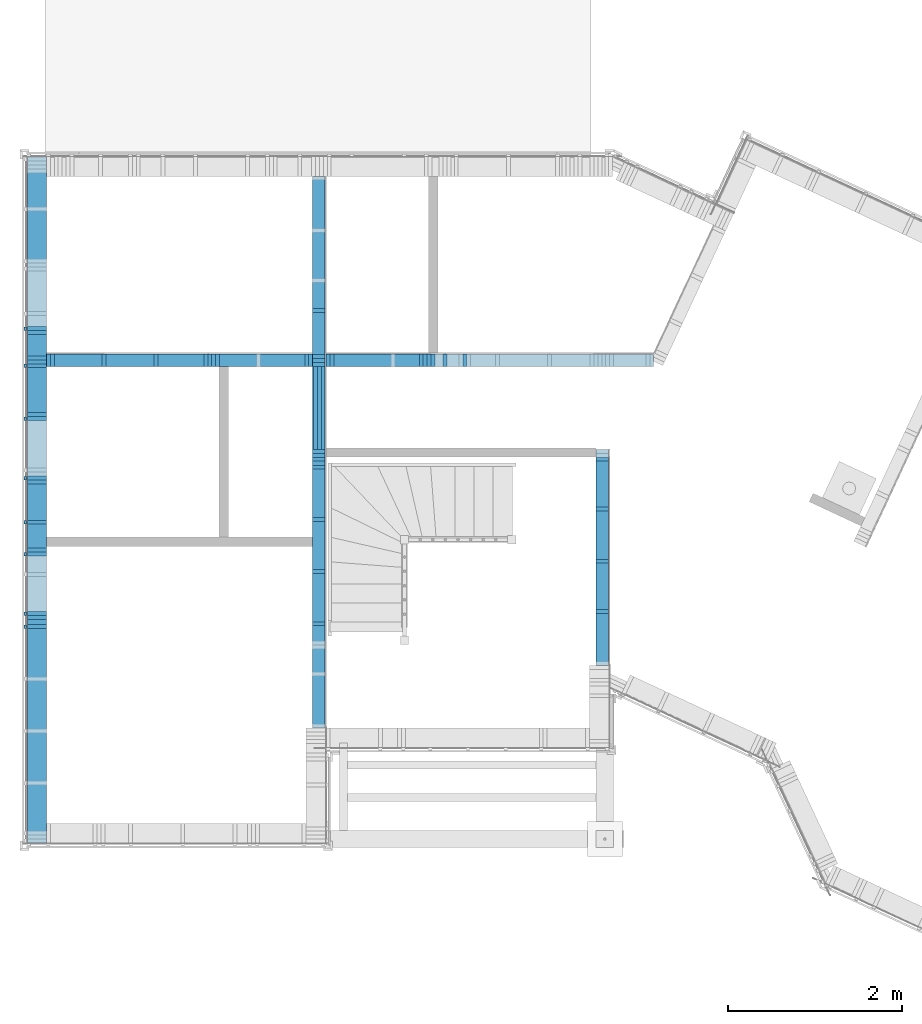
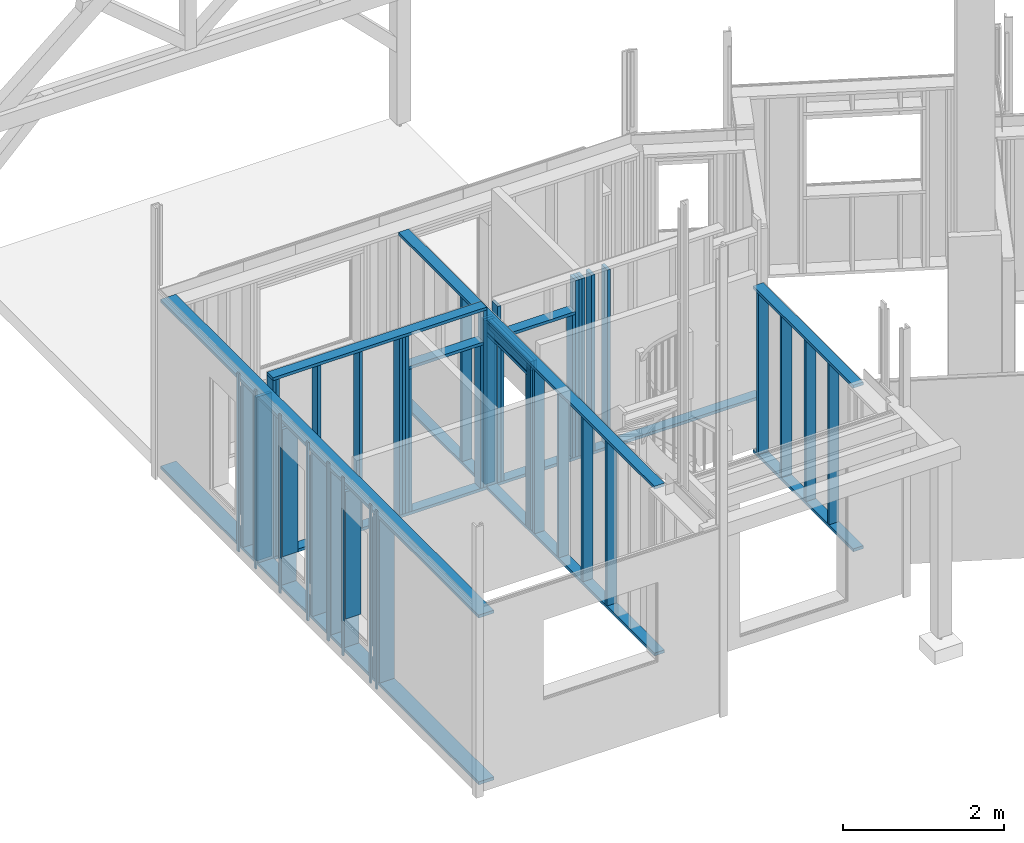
# One storey, part 7 of 34: 71 members.
"""IFC2X3 building model written with IfcOpenShell, lengths in metres."""

import ifcopenshell
import ifcopenshell.guid

model = None  # the IFC model being written
_history = None  # IfcOwnerHistory: only IFC2X3 demands one
_inside = {}  # id of a spatial element -> (the spatial element, [elements in it])
_under = {}  # id of a project, library or spatial element -> (it, [spatial elements below it])
_declared = {}  # id of a project -> (the project, [libraries it declares])
_typed = {}  # id of a type object -> (the type object, [elements of that type])
_made_of = {}  # id of a material, layer set ... -> (it, [elements and type objects made of it])


def new_model(schema):
    """Start an empty IFC model of exactly this schema.

    Asked for "IFC4X3", IfcOpenShell would pick the latest addendum, in which some entities
    have other attributes; the version numbers below select the first issue.
    IFC2X3 requires an IfcOwnerHistory on every rooted entity: one is made here for all.
    """
    global model, _history
    if schema == "IFC4X3":
        model = ifcopenshell.file(schema_version=(4, 3, 0, 0))
    else:
        model = ifcopenshell.file(schema=schema)
    _inside.clear()
    _under.clear()
    _declared.clear()
    _typed.clear()
    _made_of.clear()
    _history = None
    if model.schema == "IFC2X3":
        org = make("IfcOrganization", Name="unknown")
        user = make(
            "IfcPersonAndOrganization",
            ThePerson=make("IfcPerson", FamilyName="unknown"),
            TheOrganization=org,
        )
        app = make(
            "IfcApplication",
            ApplicationDeveloper=org,
            Version="unknown",
            ApplicationFullName="unknown",
            ApplicationIdentifier="unknown",
        )
        _history = make(
            "IfcOwnerHistory",
            OwningUser=user,
            OwningApplication=app,
            ChangeAction="ADDED",
            CreationDate=0,
        )
    return model


def make(cls, **values):
    """One entity of the class cls with the attributes given. An attribute that is None is left unset."""
    return model.create_entity(
        cls, **{name: value for name, value in values.items() if value is not None}
    )


def rooted(cls, **values):
    """An entity with a GlobalId (a new one), such as an element, a storey or a relation."""
    return make(cls, GlobalId=ifcopenshell.guid.new(), OwnerHistory=_history, **values)


def si_unit(unit_type, name, prefix=None):
    """IfcSIUnit, for example si_unit("LENGTHUNIT", "METRE", prefix="MILLI")."""
    return make("IfcSIUnit", UnitType=unit_type, Prefix=prefix, Name=name)


def assignment(units):
    """IfcUnitAssignment: the units of a project."""
    return None if units is None else make("IfcUnitAssignment", Units=units)


def point(xyz):
    """IfcCartesianPoint."""
    return None if xyz is None else make("IfcCartesianPoint", Coordinates=xyz)


def direction(xyz):
    """IfcDirection."""
    return None if xyz is None else make("IfcDirection", DirectionRatios=xyz)


def frame(location, z_axis=None, x_axis=None):
    """IfcAxis2Placement3D, a coordinate frame: its origin and axes. An axis left out is left unset."""
    return make(
        "IfcAxis2Placement3D",
        Location=point(location),
        Axis=direction(z_axis),
        RefDirection=direction(x_axis),
    )


def origin_with_axes():
    """The frame at (0, 0, 0) with the z axis (0, 0, 1) and the x axis (1, 0, 0) written out."""
    return frame((0.0, 0.0, 0.0), z_axis=(0.0, 0.0, 1.0), x_axis=(1.0, 0.0, 0.0))


def place(relative_to, where):
    """IfcLocalPlacement: puts the frame where relative to a parent placement (None: the world)."""
    return make(
        "IfcLocalPlacement", PlacementRelTo=relative_to, RelativePlacement=where
    )


def context(
    kind, dimensions, precision=None, world=None, true_north=None, identifier=None
):
    """IfcGeometricRepresentationContext, for example the 3D "Model" context."""
    return make(
        "IfcGeometricRepresentationContext",
        ContextIdentifier=identifier,
        ContextType=kind,
        CoordinateSpaceDimension=dimensions,
        Precision=precision,
        WorldCoordinateSystem=world,
        TrueNorth=true_north,
    )


def subcontext(parent, identifier, kind, view, scale=None):
    """IfcGeometricRepresentationSubContext, for example "Body" below "Model"."""
    return make(
        "IfcGeometricRepresentationSubContext",
        ContextIdentifier=identifier,
        ContextType=kind,
        ParentContext=parent,
        TargetScale=scale,
        TargetView=view,
    )


def project(units=None, contexts=None):
    """IfcProject with its units and contexts."""
    return rooted(
        "IfcProject",
        Name="project",
        RepresentationContexts=contexts,
        UnitsInContext=assignment(units),
    )


def spatial(cls, under=None, at=None, **own):
    """A site, building, storey or space (cls), placed at a placement, below another one or the project."""
    s = rooted(cls, ObjectPlacement=at, **own)
    if under is not None:
        _under.setdefault(under.id(), (under, []))[1].append(s)
    return s


def faces_of(points, faces, orient=None, outer=None):
    """IfcFace entities. A face is a list of loops; a loop is a list of indices into points, from 0.

    orient and outer hold one flag for each loop. By default every Orientation is true, the
    first loop of a face is its IfcFaceOuterBound and the others are IfcFaceBound.
    """
    made = []
    for i, loops in enumerate(faces):
        bounds = []
        for j, loop in enumerate(loops):
            is_outer = j == 0 if outer is None else outer[i][j]
            bounds.append(
                make(
                    "IfcFaceOuterBound" if is_outer else "IfcFaceBound",
                    Bound=make("IfcPolyLoop", Polygon=[points[k] for k in loop]),
                    Orientation=True if orient is None else orient[i][j],
                )
            )
        made.append(make("IfcFace", Bounds=bounds))
    return made


def faceted_brep(points, faces, orient=None, outer=None, voids=None):
    """IfcFacetedBrep: a solid bounded by flat faces; with voids (closed shells), ...WithVoids."""
    shared = [point(p) for p in points]
    hull = make("IfcClosedShell", CfsFaces=faces_of(shared, faces, orient, outer))
    if voids is None:
        return make("IfcFacetedBrep", Outer=hull)
    return make(
        "IfcFacetedBrepWithVoids",
        Outer=hull,
        Voids=[
            make(cls, CfsFaces=faces_of(shared, fs, o, b)) for cls, fs, o, b in voids
        ],
    )


def shape(context_of_items, identifier, shape_type, items):
    """IfcShapeRepresentation: the items that make up one representation, for example the "Body"."""
    return make(
        "IfcShapeRepresentation",
        ContextOfItems=context_of_items,
        RepresentationIdentifier=identifier,
        RepresentationType=shape_type,
        Items=items,
    )


def material(Name=None, Category=None):
    """IfcMaterial."""
    return make("IfcMaterial", Name=Name, Category=Category)


def made_of(thing, what):
    """Note that an element or type object is made of a material, layer set ...; save() writes the relation."""
    if what is not None:
        _made_of.setdefault(what.id(), (what, []))[1].append(thing)
    return thing


def element(
    cls,
    number,
    at=None,
    inside=None,
    cuts=None,
    type_object=None,
    material=None,
    context=None,
    identifier="Body",
    shape_type=None,
    held_by="IfcProductDefinitionShape",
    body=None,
    shapes=None,
    **own,
):
    """One element of the class cls, such as IfcWall. Its Tag is "e" and its number.

    at: its placement. inside: the storey or other place that contains it. cuts: it is an
    opening in that element (IfcRelVoidsElement). A single representation is given by context,
    identifier, shape_type and body (its items); several are given by shapes. held_by: the class
    of the entity that holds the representations. save() writes the other relations.
    """
    e = rooted(cls, Tag="e%d" % number, ObjectPlacement=at, **own)
    if body is not None:
        shapes = [shape(context, identifier, shape_type, body)]
    if shapes is not None:
        e.Representation = make(held_by, Representations=shapes)
    if inside is not None:
        _inside.setdefault(inside.id(), (inside, []))[1].append(e)
    if cuts is not None:
        rooted(
            "IfcRelVoidsElement", RelatingBuildingElement=cuts, RelatedOpeningElement=e
        )
    if type_object is not None:
        _typed.setdefault(type_object.id(), (type_object, []))[1].append(e)
    return made_of(e, material)


def aggregate(whole, parts):
    """IfcRelAggregates: a whole, such as a stair, and the parts it consists of."""
    return rooted("IfcRelAggregates", RelatingObject=whole, RelatedObjects=parts)


def save(model, path):
    """Write the relations noted so far, then the file.

    IfcRelAggregates (storeys below a building ...), IfcRelContainedInSpatialStructure (elements
    in a storey), IfcRelDefinesByType, IfcRelAssociatesMaterial and IfcRelDeclares: one each for
    every whole, place, type object, material and project.
    """
    for whole, parts in _under.values():
        aggregate(whole, parts)
    for where, things in _inside.values():
        rooted(
            "IfcRelContainedInSpatialStructure",
            RelatedElements=things,
            RelatingStructure=where,
        )
    for kind, things in _typed.values():
        rooted("IfcRelDefinesByType", RelatedObjects=things, RelatingType=kind)
    for what, things in _made_of.values():
        rooted("IfcRelAssociatesMaterial", RelatedObjects=things, RelatingMaterial=what)
    for by, libraries in _declared.values():
        rooted("IfcRelDeclares", RelatingContext=by, RelatedDefinitions=libraries)
    model.write(path)


model = new_model("IFC2X3")

# Units and contexts
model_context = context("Model", 3, precision=1e-06, world=origin_with_axes(), true_north=direction((0.0, 1.0, 0.0)))
body_context = subcontext(model_context, "Body", "Model", "MODEL_VIEW")
ifc_project = project(units=[si_unit("LENGTHUNIT", "METRE"), si_unit("AREAUNIT", "SQUARE_METRE"), si_unit("VOLUMEUNIT", "CUBIC_METRE"), si_unit("PLANEANGLEUNIT", "RADIAN")], contexts=[model_context])

# Site, building, storey
site_placement = place(None, origin_with_axes())
site = spatial("IfcSite", under=ifc_project, at=site_placement, CompositionType="ELEMENT")
building_placement = place(site_placement, origin_with_axes())
building = spatial("IfcBuilding", under=site, at=building_placement, Name="Building 1", CompositionType="ELEMENT")
storey_placement = place(building_placement, origin_with_axes())
storey = spatial("IfcBuildingStorey", under=building, at=storey_placement, Name="Rez de chaussée", CompositionType="ELEMENT", Elevation=0.0)

# Members
ifc_material = material(Name="Epicéa C24")
member_1_placement = place(storey_placement, frame((0.122, 3.3325564, 2.478), z_axis=(-1.0, 0.0, 0.0), x_axis=(0.0, 0.0, -1.0)))
element("IfcMember", 1, at=member_1_placement, inside=storey, material=ifc_material, Name="Montant", context=body_context, shape_type="Brep", body=[
    faceted_brep([(1.926, -0.0225, -0.11), (1.926, 0.0225, -0.11), (1.926, 0.0225, 0.11), (1.926, -0.0225, 0.11), (0.0, 0.0225, -0.11), (0.0, 0.0225, 0.11), (0.0, -0.0225, -0.11), (0.0, -0.0225, 0.11)], [[[0, 1, 2, 3]], [[2, 1, 4, 5]], [[1, 0, 6, 4]], [[0, 3, 7, 6]], [[3, 2, 5, 7]], [[7, 5, 4, 6]]]),
])
member_2_placement = place(storey_placement, frame((0.122, 3.698, 2.568), z_axis=(-1.0, 0.0, 0.0), x_axis=(0.0, 0.0, -1.0)))
element("IfcMember", 2, at=member_2_placement, inside=storey, material=ifc_material, Name="Montant", context=body_context, shape_type="Brep", body=[
    faceted_brep([(2.478, -0.0225, -0.11), (2.478, 0.0225, -0.11), (2.478, 0.0225, 0.11), (2.478, -0.0225, 0.11), (0.0, -0.0225, 0.11), (0.0, -0.0225, -0.11), (0.0, 0.0225, -0.11), (0.0, 0.0225, 0.11)], [[[0, 1, 2, 3]], [[0, 3, 4, 5]], [[1, 0, 5, 6]], [[2, 1, 6, 7]], [[3, 2, 7, 4]], [[4, 7, 6, 5]]]),
])
member_3_placement = place(storey_placement, frame((2.1535, 5.5627176, 2.76), z_axis=(0.0, 1.0, 0.0), x_axis=(0.0, 0.0, -1.0)))
element("IfcMember", 3, at=member_3_placement, inside=storey, material=ifc_material, Name="Montant", context=body_context, shape_type="Brep", body=[
    faceted_brep([(2.67, -0.0225, -0.0725), (2.67, 0.0225, -0.0725), (2.67, 0.0225, 0.0725), (2.67, -0.0225, 0.0725), (0.0, -0.0225, 0.0725), (0.0, -0.0225, -0.0725), (0.0, 0.0225, -0.0725), (0.0, 0.0225, 0.0725)], [[[0, 1, 2, 3]], [[0, 3, 4, 5]], [[1, 0, 5, 6]], [[2, 1, 6, 7]], [[3, 2, 7, 4]], [[4, 7, 6, 5]]]),
])
member_4_placement = place(storey_placement, frame((3.3635, 4.5125, 2.378), z_axis=(1.0, 0.0, 0.0), x_axis=(0.0, 0.0, -1.0)))
element("IfcMember", 4, at=member_4_placement, inside=storey, material=ifc_material, Name="Montant", context=body_context, shape_type="Brep", body=[
    faceted_brep([(2.288, -0.0225, -0.0725), (2.288, 0.0225, -0.0725), (2.288, 0.0225, 0.0725), (2.288, -0.0225, 0.0725), (0.0, -0.0225, 0.0725), (0.0, -0.0225, -0.0725), (0.0, 0.0225, -0.0725), (0.0, 0.0225, 0.0725)], [[[0, 1, 2, 3]], [[0, 3, 4, 5]], [[1, 0, 5, 6]], [[2, 1, 6, 7]], [[3, 2, 7, 4]], [[4, 7, 6, 5]]]),
])
member_5_placement = place(storey_placement, frame((6.6235, 4.4225, 2.52), z_axis=(1.0, 0.0, 0.0), x_axis=(0.0, 0.0, -1.0)))
element("IfcMember", 5, at=member_5_placement, inside=storey, material=ifc_material, Name="Montant", context=body_context, shape_type="Brep", body=[
    faceted_brep([(2.43, -0.0225, 0.0725), (2.43, 0.0225, 0.0725), (0.0, 0.0225, 0.0725), (0.0, -0.0225, 0.0725), (2.43, -0.0225, -0.0725), (2.43, 0.0225, -0.0725), (0.0, -0.0225, -0.0725), (0.0, 0.0225, -0.0725)], [[[0, 1, 2, 3]], [[4, 5, 1, 0]], [[4, 0, 3, 6]], [[5, 4, 6, 7]], [[1, 5, 7, 2]], [[3, 2, 7, 6]]]),
])
member_6_placement = place(storey_placement, frame((3.291, 5.5627176, 0.0675), z_axis=(0.0, -1.0, 0.0), x_axis=(-1.0, 0.0, 0.0)))
element("IfcMember", 6, at=member_6_placement, inside=storey, material=ifc_material, Name="Lisse basse", context=body_context, shape_type="Brep", body=[
    faceted_brep([(0.0, 0.0225, -0.0725), (3.059, 0.0225, -0.0725), (3.059, -0.0225, -0.0725), (0.0, -0.0225, -0.0725), (3.059, -0.0225, 0.0725), (0.0, -0.0225, 0.0725), (3.059, 0.0225, 0.0725), (0.0, 0.0225, 0.0725)], [[[0, 1, 2, 3]], [[4, 5, 3, 2]], [[6, 4, 2, 1]], [[0, 3, 5, 7]], [[0, 7, 6, 1]], [[7, 5, 4, 6]]]),
])
member_7_placement = place(storey_placement, frame((4.8151297, 5.5627176, 2.76), z_axis=(0.0, 1.0, 0.0), x_axis=(0.0, 0.0, -1.0)))
element("IfcMember", 7, at=member_7_placement, inside=storey, material=ifc_material, Name="Montant", context=body_context, shape_type="Brep", body=[
    faceted_brep([(2.67, -0.0225, -0.0725), (2.67, 0.0225, -0.0725), (2.67, 0.0225, 0.0725), (2.67, -0.0225, 0.0725), (0.0, -0.0225, 0.0725), (0.0, -0.0225, -0.0725), (0.0, 0.0225, -0.0725), (0.0, 0.0225, 0.0725)], [[[0, 1, 2, 3]], [[0, 3, 4, 5]], [[1, 0, 5, 6]], [[2, 1, 6, 7]], [[3, 2, 7, 4]], [[4, 7, 6, 5]]]),
])
member_8_placement = place(storey_placement, frame((7.2131297, 5.5627176, 0.0675), z_axis=(0.0, -1.0, 0.0), x_axis=(-1.0, 0.0, 0.0)))
element("IfcMember", 8, at=member_8_placement, inside=storey, material=ifc_material, Name="Lisse basse", context=body_context, shape_type="Brep", body=[
    faceted_brep([(0.0, 0.0225, -0.0725), (3.7651297, 0.0225, -0.0725), (3.7651297, -0.0225, -0.0725), (0.0, -0.0225, -0.0725), (3.7651297, -0.0225, 0.0725), (0.0, -0.0225, 0.0725), (3.7651297, 0.0225, 0.0725), (0.0, 0.0225, 0.0725)], [[[0, 1, 2, 3]], [[4, 5, 3, 2]], [[2, 1, 6, 4]], [[7, 6, 1, 0]], [[5, 4, 6, 7]], [[5, 7, 0, 3]]]),
])
for number, where, z_axis, x_axis, name in (
    (9, (4.6305, 5.5627176, 2.76), (0.0, 1.0, 0.0), (0.0, 0.0, -1.0), "Montant"),
    (10, (4.6755, 5.5627176, 2.76), (0.0, 1.0, 0.0), (0.0, 0.0, -1.0), "Montant"),
):
    element("IfcMember", number, at=place(storey_placement, frame(where, z_axis=z_axis, x_axis=x_axis)), inside=storey, material=ifc_material, Name=name, context=body_context, shape_type="Brep", body=[
        faceted_brep([(2.67, -0.0225, -0.0725), (2.67, 0.0225, -0.0725), (2.67, 0.0225, 0.0725), (2.67, -0.0225, 0.0725), (0.0, -0.0225, 0.0725), (0.0, -0.0225, -0.0725), (0.0, 0.0225, -0.0725), (0.0, 0.0225, 0.0725)], [[[0, 1, 2, 3]], [[0, 3, 4, 5]], [[1, 0, 5, 6]], [[2, 1, 6, 7]], [[3, 2, 7, 4]], [[4, 7, 6, 5]]]),
    ])
for number, where, z_axis, x_axis, name in (
    (11, (-0.013, 2.6475564, 2.703), (-1.0, 0.0, 0.0), (0.0, 0.0, -1.0), "latte 27/40"),
    (12, (-0.013, 4.8903031, 2.703), (-1.0, 0.0, 0.0), (0.0, 0.0, -1.0), "latte 27/40"),
):
    element("IfcMember", number, at=place(storey_placement, frame(where, z_axis=z_axis, x_axis=x_axis)), inside=storey, material=ifc_material, Name=name, context=body_context, shape_type="Brep", body=[
        faceted_brep([(0.0, -0.02, 0.012), (0.0, 0.02, 0.012), (0.0, 0.02, -0.012), (0.0, -0.02, -0.012), (2.698, 0.02, -0.012), (2.698, -0.02, -0.012), (2.698, -0.02, 0.012), (2.698, 0.02, 0.012)], [[[0, 1, 2, 3]], [[3, 2, 4, 5]], [[0, 3, 5, 6]], [[1, 0, 6, 7]], [[7, 6, 5, 4]], [[2, 1, 7, 4]]]),
    ])
member_9_placement = place(storey_placement, frame((5.0401817, 5.5627176, 2.76), z_axis=(0.0, 1.0, 0.0), x_axis=(0.0, 0.0, -1.0)))
element("IfcMember", 13, at=member_9_placement, inside=storey, material=ifc_material, Name="Montant", context=body_context, shape_type="Brep", body=[
    faceted_brep([(2.67, -0.0225, -0.0725), (2.67, 0.0225, -0.0725), (2.67, 0.0225, 0.0725), (2.67, -0.0225, 0.0725), (0.0, -0.0225, 0.0725), (0.0, -0.0225, -0.0725), (0.0, 0.0225, -0.0725), (0.0, 0.0225, 0.0725)], [[[0, 1, 2, 3]], [[0, 3, 4, 5]], [[1, 0, 5, 6]], [[2, 1, 6, 7]], [[3, 2, 7, 4]], [[4, 7, 6, 5]]]),
])
member_10_placement = place(storey_placement, frame((0.122, 7.896, 0.0675), z_axis=(1.0, 0.0, 0.0), x_axis=(0.0, -1.0, 0.0)))
element("IfcMember", 14, at=member_10_placement, inside=storey, material=ifc_material, Name="Lisse basse", context=body_context, shape_type="Brep", body=[
    faceted_brep([(7.884, 0.0225, -0.11), (7.884, 0.0225, 0.11), (7.884, -0.0225, 0.11), (7.884, -0.0225, -0.11), (0.0, 0.0225, 0.11), (0.0, 0.0225, -0.11), (0.0, -0.0225, -0.11), (0.0, -0.0225, 0.11)], [[[0, 1, 2, 3]], [[4, 5, 6, 7]], [[1, 4, 7, 2]], [[0, 5, 4, 1]], [[3, 6, 5, 0]], [[2, 7, 6, 3]]]),
])
member_11_placement = place(storey_placement, frame((0.122, 5.9256735, 2.478), z_axis=(-1.0, 0.0, 0.0), x_axis=(0.0, 0.0, -1.0)))
element("IfcMember", 15, at=member_11_placement, inside=storey, material=ifc_material, Name="Montant", context=body_context, shape_type="Brep", body=[
    faceted_brep([(1.926, -0.0225, -0.11), (1.926, 0.0225, -0.11), (1.926, 0.0225, 0.11), (1.926, -0.0225, 0.11), (0.0, 0.0225, -0.11), (0.0, 0.0225, 0.11), (0.0, -0.0225, -0.11), (0.0, -0.0225, 0.11)], [[[0, 1, 2, 3]], [[2, 1, 4, 5]], [[1, 0, 6, 4]], [[0, 3, 7, 6]], [[3, 2, 5, 7]], [[7, 5, 4, 6]]]),
])
member_12_placement = place(storey_placement, frame((3.291, 5.5627176, 2.7825), z_axis=(0.0, -1.0, 0.0), x_axis=(-1.0, 0.0, 0.0)))
element("IfcMember", 16, at=member_12_placement, inside=storey, material=ifc_material, Name="Montant", context=body_context, shape_type="Brep", body=[
    faceted_brep([(0.0, 0.0225, -0.0725), (3.059, 0.0225, -0.0725), (3.059, -0.0225, -0.0725), (0.0, -0.0225, -0.0725), (3.059, -0.0225, 0.0725), (0.0, -0.0225, 0.0725), (3.059, 0.0225, 0.0725), (0.0, 0.0225, 0.0725)], [[[0, 1, 2, 3]], [[4, 5, 3, 2]], [[6, 4, 2, 1]], [[0, 3, 5, 7]], [[0, 7, 6, 1]], [[7, 5, 4, 6]]]),
])
member_13_placement = place(storey_placement, frame((0.2995, 5.5627176, 2.76), z_axis=(0.0, 1.0, 0.0), x_axis=(0.0, 0.0, -1.0)))
element("IfcMember", 17, at=member_13_placement, inside=storey, material=ifc_material, Name="Montant", context=body_context, shape_type="Brep", body=[
    faceted_brep([(2.67, -0.0225, -0.0725), (2.67, 0.0225, -0.0725), (2.67, 0.0225, 0.0725), (2.67, -0.0225, 0.0725), (0.0, -0.0225, 0.0725), (0.0, -0.0225, -0.0725), (0.0, 0.0225, -0.0725), (0.0, 0.0225, 0.0725)], [[[0, 1, 2, 3]], [[0, 3, 4, 5]], [[1, 0, 5, 6]], [[2, 1, 6, 7]], [[3, 2, 7, 4]], [[4, 7, 6, 5]]]),
])
member_14_placement = place(storey_placement, frame((6.6235, 2.0514744, 0.0675), z_axis=(-1.0, 0.0, 0.0), x_axis=(0.0, 1.0, 0.0)))
element("IfcMember", 18, at=member_14_placement, inside=storey, material=ifc_material, Name="Lisse basse", context=body_context, shape_type="Brep", body=[
    faceted_brep([(0.0, 0.0225, -0.0725), (2.4835256, 0.0225, -0.0725), (2.4835256, -0.0225, -0.0725), (0.0, -0.0225, -0.0725), (2.4835256, 0.0225, 0.0725), (2.4835256, -0.0225, 0.0725), (0.0, -0.0225, 0.0725), (0.0, 0.0225, 0.0725)], [[[0, 1, 2, 3]], [[4, 5, 2, 1]], [[5, 6, 3, 2]], [[7, 4, 1, 0]], [[6, 5, 4, 7]], [[6, 7, 0, 3]]]),
])
member_15_placement = place(storey_placement, frame((0.122, 4.1603031, 2.568), z_axis=(-1.0, 0.0, 0.0), x_axis=(0.0, 0.0, -1.0)))
element("IfcMember", 19, at=member_15_placement, inside=storey, material=ifc_material, Name="Montant", context=body_context, shape_type="Brep", body=[
    faceted_brep([(2.478, -0.0225, -0.11), (2.478, 0.0225, -0.11), (2.478, 0.0225, 0.11), (2.478, -0.0225, 0.11), (0.0, -0.0225, 0.11), (0.0, -0.0225, -0.11), (0.0, 0.0225, -0.11), (0.0, 0.0225, 0.11)], [[[0, 1, 2, 3]], [[0, 3, 4, 5]], [[1, 0, 5, 6]], [[2, 1, 6, 7]], [[3, 2, 7, 4]], [[4, 7, 6, 5]]]),
])
member_16_placement = place(storey_placement, frame((0.122, 7.896, 2.5905), z_axis=(1.0, 0.0, 0.0), x_axis=(0.0, -1.0, 0.0)))
element("IfcMember", 20, at=member_16_placement, inside=storey, material=ifc_material, Name="Montant", context=body_context, shape_type="Brep", body=[
    faceted_brep([(7.884, 0.0225, -0.11), (7.884, 0.0225, 0.11), (7.884, -0.0225, 0.11), (7.884, -0.0225, -0.11), (0.0, 0.0225, 0.11), (0.0, 0.0225, -0.11), (0.0, -0.0225, -0.11), (0.0, -0.0225, 0.11)], [[[0, 1, 2, 3]], [[4, 5, 6, 7]], [[1, 4, 7, 2]], [[0, 5, 4, 1]], [[3, 6, 5, 0]], [[2, 7, 6, 3]]]),
])
member_17_placement = place(storey_placement, frame((3.3635, 5.6027176, 2.568), z_axis=(-1.0, 0.0, 0.0), x_axis=(0.0, 0.0, -1.0)))
element("IfcMember", 21, at=member_17_placement, inside=storey, material=ifc_material, Name="Montant", context=body_context, shape_type="Brep", body=[
    faceted_brep([(2.478, -0.0225, -0.0725), (2.478, 0.0225, -0.0725), (2.478, 0.0225, 0.0725), (2.478, -0.0225, 0.0725), (0.0, -0.0225, 0.0725), (0.0, -0.0225, -0.0725), (0.0, 0.0225, -0.0725), (0.0, 0.0225, 0.0725)], [[[0, 1, 2, 3]], [[0, 3, 4, 5]], [[1, 0, 5, 6]], [[2, 1, 6, 7]], [[3, 2, 7, 4]], [[4, 7, 6, 5]]]),
])
member_18_placement = place(storey_placement, frame((-0.013, 3.3325564, 2.703), z_axis=(-1.0, 0.0, 0.0), x_axis=(0.0, 0.0, -1.0)))
element("IfcMember", 22, at=member_18_placement, inside=storey, material=ifc_material, Name="latte 27/40", context=body_context, shape_type="Brep", body=[
    faceted_brep([(0.0, -0.02, 0.012), (0.0, 0.02, 0.012), (0.0, 0.02, -0.012), (0.0, -0.02, -0.012), (2.698, 0.02, -0.012), (2.698, -0.02, -0.012), (2.698, -0.02, 0.012), (2.698, 0.02, 0.012)], [[[0, 1, 2, 3]], [[3, 2, 4, 5]], [[0, 3, 5, 6]], [[1, 0, 6, 7]], [[7, 6, 5, 4]], [[2, 1, 7, 4]]]),
])
member_19_placement = place(storey_placement, frame((0.122, 2.6025564, 2.568), z_axis=(-1.0, 0.0, 0.0), x_axis=(0.0, 0.0, -1.0)))
element("IfcMember", 23, at=member_19_placement, inside=storey, material=ifc_material, Name="Montant", context=body_context, shape_type="Brep", body=[
    faceted_brep([(2.478, -0.0225, -0.11), (2.478, 0.0225, -0.11), (2.478, 0.0225, 0.11), (2.478, -0.0225, 0.11), (0.0, -0.0225, 0.11), (0.0, -0.0225, -0.11), (0.0, 0.0225, -0.11), (0.0, 0.0225, 0.11)], [[[0, 1, 2, 3]], [[0, 3, 4, 5]], [[1, 0, 5, 6]], [[2, 1, 6, 7]], [[3, 2, 7, 4]], [[4, 7, 6, 5]]]),
])
member_20_placement = place(storey_placement, frame((3.3635, 1.3328281, 0.0675), z_axis=(-1.0, 0.0, 0.0), x_axis=(0.0, 1.0, 0.0)))
element("IfcMember", 24, at=member_20_placement, inside=storey, material=ifc_material, Name="Lisse basse", context=body_context, shape_type="Brep", body=[
    faceted_brep([(0.0, 0.0225, -0.0725), (6.3431719, 0.0225, -0.0725), (6.3431719, -0.0225, -0.0725), (0.0, -0.0225, -0.0725), (6.3431719, -0.0225, 0.0725), (0.0, -0.0225, 0.0725), (6.3431719, 0.0225, 0.0725), (0.0, 0.0225, 0.0725)], [[[0, 1, 2, 3]], [[4, 5, 3, 2]], [[6, 4, 2, 1]], [[7, 6, 1, 0]], [[5, 4, 6, 7]], [[5, 7, 0, 3]]]),
])
member_21_placement = place(storey_placement, frame((6.6235, 3.2494744, 2.52), z_axis=(1.0, 0.0, 0.0), x_axis=(0.0, 0.0, -1.0)))
element("IfcMember", 25, at=member_21_placement, inside=storey, material=ifc_material, Name="Montant", context=body_context, shape_type="Brep", body=[
    faceted_brep([(2.43, -0.0225, 0.0725), (2.43, 0.0225, 0.0725), (0.0, 0.0225, 0.0725), (0.0, -0.0225, 0.0725), (2.43, -0.0225, -0.0725), (2.43, 0.0225, -0.0725), (0.0, -0.0225, -0.0725), (0.0, 0.0225, -0.0725)], [[[0, 1, 2, 3]], [[4, 5, 1, 0]], [[4, 0, 3, 6]], [[5, 4, 6, 7]], [[1, 5, 7, 2]], [[3, 2, 7, 6]]]),
])
member_22_placement = place(storey_placement, frame((2.0635, 5.5627176, 2.76), z_axis=(0.0, 1.0, 0.0), x_axis=(0.0, 0.0, -1.0)))
element("IfcMember", 26, at=member_22_placement, inside=storey, material=ifc_material, Name="Montant", context=body_context, shape_type="Brep", body=[
    faceted_brep([(2.67, -0.0225, -0.0725), (2.67, 0.0225, -0.0725), (2.67, 0.0225, 0.0725), (2.67, -0.0225, 0.0725), (0.0, -0.0225, 0.0725), (0.0, -0.0225, -0.0725), (0.0, 0.0225, -0.0725), (0.0, 0.0225, 0.0725)], [[[0, 1, 2, 3]], [[0, 3, 4, 5]], [[1, 0, 5, 6]], [[2, 1, 6, 7]], [[3, 2, 7, 4]], [[4, 7, 6, 5]]]),
])
member_23_placement = place(storey_placement, frame((3.3635, 1.3328281, 2.5905), z_axis=(-1.0, 0.0, 0.0), x_axis=(0.0, 1.0, 0.0)))
element("IfcMember", 27, at=member_23_placement, inside=storey, material=ifc_material, Name="Montant", context=body_context, shape_type="Brep", body=[
    faceted_brep([(0.0, 0.0225, -0.0725), (6.3431719, 0.0225, -0.0725), (6.3431719, -0.0225, -0.0725), (0.0, -0.0225, -0.0725), (6.3431719, -0.0225, 0.0725), (0.0, -0.0225, 0.0725), (6.3431719, 0.0225, 0.0725), (0.0, 0.0225, 0.0725)], [[[0, 1, 2, 3]], [[4, 5, 3, 2]], [[6, 4, 2, 1]], [[7, 6, 1, 0]], [[5, 4, 6, 7]], [[5, 7, 0, 3]]]),
])
member_24_placement = place(storey_placement, frame((6.6235, 2.0514744, 2.5425), z_axis=(-1.0, 0.0, 0.0), x_axis=(0.0, 1.0, 0.0)))
element("IfcMember", 28, at=member_24_placement, inside=storey, material=ifc_material, Name="Montant", context=body_context, shape_type="Brep", body=[
    faceted_brep([(0.0, 0.0225, -0.0725), (2.4835256, 0.0225, -0.0725), (2.4835256, -0.0225, -0.0725), (0.0, -0.0225, -0.0725), (2.4835256, 0.0225, 0.0725), (2.4835256, -0.0225, 0.0725), (0.0, -0.0225, 0.0725), (0.0, 0.0225, 0.0725)], [[[0, 1, 2, 3]], [[4, 5, 2, 1]], [[5, 6, 3, 2]], [[7, 4, 1, 0]], [[6, 5, 4, 7]], [[6, 7, 0, 3]]]),
])
member_25_placement = place(storey_placement, frame((3.3635, 5.5352176, 2.4005), z_axis=(1.0, 0.0, 0.0), x_axis=(0.0, -1.0, 0.0)))
element("IfcMember", 29, at=member_25_placement, inside=storey, material=ifc_material, Name="Montant", context=body_context, shape_type="Brep", body=[
    faceted_brep([(0.0, 0.0225, -0.0725), (0.0, -0.0225, -0.0725), (0.0, -0.0225, 0.0725), (0.0, 0.0225, 0.0725), (1.0452176, 0.0225, -0.0725), (1.0452176, -0.0225, -0.0725), (1.0452176, 0.0225, 0.0725), (1.0452176, -0.0225, 0.0725)], [[[0, 1, 2, 3]], [[1, 0, 4, 5]], [[0, 3, 6, 4]], [[5, 4, 6, 7]], [[2, 1, 5, 7]], [[3, 2, 7, 6]]]),
])
member_26_placement = place(storey_placement, frame((6.6235, 2.6739744, 2.52), z_axis=(1.0, 0.0, 0.0), x_axis=(0.0, 0.0, -1.0)))
element("IfcMember", 30, at=member_26_placement, inside=storey, material=ifc_material, Name="Montant", context=body_context, shape_type="Brep", body=[
    faceted_brep([(2.43, -0.0225, 0.0725), (2.43, 0.0225, 0.0725), (0.0, 0.0225, 0.0725), (0.0, -0.0225, 0.0725), (2.43, -0.0225, -0.0725), (2.43, 0.0225, -0.0725), (0.0, -0.0225, -0.0725), (0.0, 0.0225, -0.0725)], [[[0, 1, 2, 3]], [[4, 5, 1, 0]], [[4, 0, 3, 6]], [[5, 4, 6, 7]], [[1, 5, 7, 2]], [[3, 2, 7, 6]]]),
])
member_27_placement = place(storey_placement, frame((0.122, 3.3775564, 2.568), z_axis=(-1.0, 0.0, 0.0), x_axis=(0.0, 0.0, -1.0)))
element("IfcMember", 31, at=member_27_placement, inside=storey, material=ifc_material, Name="Montant", context=body_context, shape_type="Brep", body=[
    faceted_brep([(2.478, -0.0225, -0.11), (2.478, 0.0225, -0.11), (2.478, 0.0225, 0.11), (2.478, -0.0225, 0.11), (0.0, -0.0225, 0.11), (0.0, -0.0225, -0.11), (0.0, 0.0225, -0.11), (0.0, 0.0225, 0.11)], [[[0, 1, 2, 3]], [[0, 3, 4, 5]], [[1, 0, 5, 6]], [[2, 1, 6, 7]], [[3, 2, 7, 4]], [[4, 7, 6, 5]]]),
])
member_28_placement = place(storey_placement, frame((0.122, 2.6475564, 2.478), z_axis=(-1.0, 0.0, 0.0), x_axis=(0.0, 0.0, -1.0)))
element("IfcMember", 32, at=member_28_placement, inside=storey, material=ifc_material, Name="Montant", context=body_context, shape_type="Brep", body=[
    faceted_brep([(1.926, -0.0225, -0.11), (1.926, 0.0225, -0.11), (1.926, 0.0225, 0.11), (1.926, -0.0225, 0.11), (0.0, 0.0225, -0.11), (0.0, 0.0225, 0.11), (0.0, -0.0225, -0.11), (0.0, -0.0225, 0.11)], [[[0, 1, 2, 3]], [[2, 1, 4, 5]], [[1, 0, 6, 4]], [[0, 3, 7, 6]], [[3, 2, 5, 7]], [[7, 5, 4, 6]]]),
])
for number, where, z_axis, x_axis, name in (
    (33, (3.3235, 5.5352176, 2.4955), (0.0, 0.0, 1.0), (0.0, -1.0, 0.0), "Montant"),
    (34, (3.3685, 5.5352176, 2.4955), (0.0, 0.0, 1.0), (0.0, -1.0, 0.0), "Montant"),
):
    element("IfcMember", number, at=place(storey_placement, frame(where, z_axis=z_axis, x_axis=x_axis)), inside=storey, material=ifc_material, Name=name, context=body_context, shape_type="Brep", body=[
        faceted_brep([(1.0452176, 0.0225, -0.0725), (1.0452176, 0.0225, 0.0725), (1.0452176, -0.0225, 0.0725), (1.0452176, -0.0225, -0.0725), (0.0, 0.0225, 0.0725), (0.0, 0.0225, -0.0725), (0.0, -0.0225, -0.0725), (0.0, -0.0225, 0.0725)], [[[0, 1, 2, 3]], [[4, 5, 6, 7]], [[3, 6, 5, 0]], [[2, 7, 6, 3]], [[1, 4, 7, 2]], [[0, 5, 4, 1]]]),
    ])
member_29_placement = place(storey_placement, frame((6.6235, 3.8494744, 2.52), z_axis=(1.0, 0.0, 0.0), x_axis=(0.0, 0.0, -1.0)))
element("IfcMember", 35, at=member_29_placement, inside=storey, material=ifc_material, Name="Montant", context=body_context, shape_type="Brep", body=[
    faceted_brep([(2.43, -0.0225, 0.0725), (2.43, 0.0225, 0.0725), (0.0, 0.0225, 0.0725), (0.0, -0.0225, 0.0725), (2.43, -0.0225, -0.0725), (2.43, 0.0225, -0.0725), (0.0, -0.0225, -0.0725), (0.0, 0.0225, -0.0725)], [[[0, 1, 2, 3]], [[4, 5, 1, 0]], [[4, 0, 3, 6]], [[5, 4, 6, 7]], [[1, 5, 7, 2]], [[3, 2, 7, 6]]]),
])
member_30_placement = place(storey_placement, frame((3.3635, 4.4225, 2.568), z_axis=(1.0, 0.0, 0.0), x_axis=(0.0, 0.0, -1.0)))
element("IfcMember", 36, at=member_30_placement, inside=storey, material=ifc_material, Name="Montant", context=body_context, shape_type="Brep", body=[
    faceted_brep([(2.478, -0.0225, -0.0725), (2.478, 0.0225, -0.0725), (2.478, 0.0225, 0.0725), (2.478, -0.0225, 0.0725), (0.0, 0.0225, -0.0725), (0.0, 0.0225, 0.0725), (0.0, -0.0225, -0.0725), (0.0, -0.0225, 0.0725)], [[[0, 1, 2, 3]], [[2, 1, 4, 5]], [[1, 0, 6, 4]], [[0, 3, 7, 6]], [[3, 2, 5, 7]], [[7, 5, 4, 6]]]),
])
member_31_placement = place(storey_placement, frame((0.2545, 5.5627176, 2.76), z_axis=(0.0, 1.0, 0.0), x_axis=(0.0, 0.0, -1.0)))
element("IfcMember", 37, at=member_31_placement, inside=storey, material=ifc_material, Name="Montant", context=body_context, shape_type="Brep", body=[
    faceted_brep([(2.67, -0.0225, -0.0725), (2.67, 0.0225, -0.0725), (2.67, 0.0225, 0.0725), (2.67, -0.0225, 0.0725), (0.0, -0.0225, 0.0725), (0.0, -0.0225, -0.0725), (0.0, 0.0225, -0.0725), (0.0, 0.0225, 0.0725)], [[[0, 1, 2, 3]], [[0, 3, 4, 5]], [[1, 0, 5, 6]], [[2, 1, 6, 7]], [[3, 2, 7, 4]], [[4, 7, 6, 5]]]),
])
member_32_placement = place(storey_placement, frame((3.5155, 5.5627176, 2.25), z_axis=(0.0, 1.0, 0.0), x_axis=(0.0, 0.0, -1.0)))
element("IfcMember", 38, at=member_32_placement, inside=storey, material=ifc_material, Name="Montant", context=body_context, shape_type="Brep", body=[
    faceted_brep([(2.16, -0.0225, -0.0725), (2.16, 0.0225, -0.0725), (2.16, 0.0225, 0.0725), (2.16, -0.0225, 0.0725), (0.0, -0.0225, 0.0725), (0.0, -0.0225, -0.0725), (0.0, 0.0225, -0.0725), (0.0, 0.0225, 0.0725)], [[[0, 1, 2, 3]], [[0, 3, 4, 5]], [[1, 0, 5, 6]], [[2, 1, 6, 7]], [[3, 2, 7, 4]], [[4, 7, 6, 5]]]),
])
member_33_placement = place(storey_placement, frame((0.122, 4.2053031, 2.478), z_axis=(-1.0, 0.0, 0.0), x_axis=(0.0, 0.0, -1.0)))
element("IfcMember", 39, at=member_33_placement, inside=storey, material=ifc_material, Name="Montant", context=body_context, shape_type="Brep", body=[
    faceted_brep([(1.926, -0.0225, -0.11), (1.926, 0.0225, -0.11), (1.926, 0.0225, 0.11), (1.926, -0.0225, 0.11), (0.0, 0.0225, -0.11), (0.0, 0.0225, 0.11), (0.0, -0.0225, -0.11), (0.0, -0.0225, 0.11)], [[[0, 1, 2, 3]], [[2, 1, 4, 5]], [[1, 0, 6, 4]], [[0, 3, 7, 6]], [[3, 2, 5, 7]], [[7, 5, 4, 6]]]),
])
member_34_placement = place(storey_placement, frame((-0.013, 4.2053031, 2.703), z_axis=(-1.0, 0.0, 0.0), x_axis=(0.0, 0.0, -1.0)))
element("IfcMember", 40, at=member_34_placement, inside=storey, material=ifc_material, Name="latte 27/40", context=body_context, shape_type="Brep", body=[
    faceted_brep([(0.0, -0.02, 0.012), (0.0, 0.02, 0.012), (0.0, 0.02, -0.012), (0.0, -0.02, -0.012), (2.698, 0.02, -0.012), (2.698, -0.02, -0.012), (2.698, -0.02, 0.012), (2.698, 0.02, 0.012)], [[[0, 1, 2, 3]], [[3, 2, 4, 5]], [[0, 3, 5, 6]], [[1, 0, 6, 7]], [[7, 6, 5, 4]], [[2, 1, 7, 4]]]),
])
member_35_placement = place(storey_placement, frame((0.122, 4.9353031, 2.568), z_axis=(-1.0, 0.0, 0.0), x_axis=(0.0, 0.0, -1.0)))
element("IfcMember", 41, at=member_35_placement, inside=storey, material=ifc_material, Name="Montant", context=body_context, shape_type="Brep", body=[
    faceted_brep([(2.478, -0.0225, -0.11), (2.478, 0.0225, -0.11), (2.478, 0.0225, 0.11), (2.478, -0.0225, 0.11), (0.0, -0.0225, 0.11), (0.0, -0.0225, -0.11), (0.0, 0.0225, -0.11), (0.0, 0.0225, 0.11)], [[[0, 1, 2, 3]], [[0, 3, 4, 5]], [[1, 0, 5, 6]], [[2, 1, 6, 7]], [[3, 2, 7, 4]], [[4, 7, 6, 5]]]),
])
member_36_placement = place(storey_placement, frame((0.122, 4.8903031, 2.478), z_axis=(-1.0, 0.0, 0.0), x_axis=(0.0, 0.0, -1.0)))
element("IfcMember", 42, at=member_36_placement, inside=storey, material=ifc_material, Name="Montant", context=body_context, shape_type="Brep", body=[
    faceted_brep([(1.926, -0.0225, -0.11), (1.926, 0.0225, -0.11), (1.926, 0.0225, 0.11), (1.926, -0.0225, 0.11), (0.0, 0.0225, -0.11), (0.0, 0.0225, 0.11), (0.0, -0.0225, -0.11), (0.0, -0.0225, 0.11)], [[[0, 1, 2, 3]], [[2, 1, 4, 5]], [[1, 0, 6, 4]], [[0, 3, 7, 6]], [[3, 2, 5, 7]], [[7, 5, 4, 6]]]),
])
member_37_placement = place(storey_placement, frame((-0.013, 5.9256735, 2.703), z_axis=(-1.0, 0.0, 0.0), x_axis=(0.0, 0.0, -1.0)))
element("IfcMember", 43, at=member_37_placement, inside=storey, material=ifc_material, Name="latte 27/40", context=body_context, shape_type="Brep", body=[
    faceted_brep([(0.0, -0.02, 0.012), (0.0, 0.02, 0.012), (0.0, 0.02, -0.012), (0.0, -0.02, -0.012), (2.698, 0.02, -0.012), (2.698, -0.02, -0.012), (2.698, -0.02, 0.012), (2.698, 0.02, 0.012)], [[[0, 1, 2, 3]], [[3, 2, 4, 5]], [[0, 3, 5, 6]], [[1, 0, 6, 7]], [[7, 6, 5, 4]], [[2, 1, 7, 4]]]),
])
for number, where, z_axis, x_axis, name in (
    (44, (0.122, 5.8806735, 2.568), (-1.0, 0.0, 0.0), (0.0, 0.0, -1.0), "Montant"),
    (45, (0.122, 5.543, 2.568), (-1.0, 0.0, 0.0), (0.0, 0.0, -1.0), "Montant"),
    (46, (0.122, 5.588, 2.568), (-1.0, 0.0, 0.0), (0.0, 0.0, -1.0), "Montant"),
    (47, (0.122, 2.498, 2.568), (-1.0, 0.0, 0.0), (0.0, 0.0, -1.0), "Montant"),
    (48, (0.122, 5.498, 2.568), (-1.0, 0.0, 0.0), (0.0, 0.0, -1.0), "Montant"),
):
    element("IfcMember", number, at=place(storey_placement, frame(where, z_axis=z_axis, x_axis=x_axis)), inside=storey, material=ifc_material, Name=name, context=body_context, shape_type="Brep", body=[
        faceted_brep([(2.478, -0.0225, -0.11), (2.478, 0.0225, -0.11), (2.478, 0.0225, 0.11), (2.478, -0.0225, 0.11), (0.0, -0.0225, 0.11), (0.0, -0.0225, -0.11), (0.0, 0.0225, -0.11), (0.0, 0.0225, 0.11)], [[[0, 1, 2, 3]], [[0, 3, 4, 5]], [[1, 0, 5, 6]], [[2, 1, 6, 7]], [[3, 2, 7, 4]], [[4, 7, 6, 5]]]),
    ])
for number, where, z_axis, x_axis, name in (
    (49, (-0.013, 2.498, 2.703), (-1.0, 0.0, 0.0), (0.0, 0.0, -1.0), "latte 27/40"),
    (50, (-0.013, 3.698, 2.703), (-1.0, 0.0, 0.0), (0.0, 0.0, -1.0), "latte 27/40"),
):
    element("IfcMember", number, at=place(storey_placement, frame(where, z_axis=z_axis, x_axis=x_axis)), inside=storey, material=ifc_material, Name=name, context=body_context, shape_type="Brep", body=[
        faceted_brep([(0.0, -0.02, 0.012), (0.0, 0.02, 0.012), (0.0, 0.02, -0.012), (0.0, -0.02, -0.012), (2.698, 0.02, -0.012), (2.698, -0.02, -0.012), (2.698, -0.02, 0.012), (2.698, 0.02, 0.012)], [[[0, 1, 2, 3]], [[3, 2, 4, 5]], [[0, 3, 5, 6]], [[1, 0, 6, 7]], [[7, 6, 5, 4]], [[2, 1, 7, 4]]]),
    ])
member_38_placement = place(storey_placement, frame((3.3635, 4.4675, 2.568), z_axis=(1.0, 0.0, 0.0), x_axis=(0.0, 0.0, -1.0)))
element("IfcMember", 51, at=member_38_placement, inside=storey, material=ifc_material, Name="Montant", context=body_context, shape_type="Brep", body=[
    faceted_brep([(2.478, -0.0225, -0.0725), (2.478, 0.0225, -0.0725), (2.478, 0.0225, 0.0725), (2.478, -0.0225, 0.0725), (0.0, 0.0225, -0.0725), (0.0, 0.0225, 0.0725), (0.0, -0.0225, -0.0725), (0.0, -0.0225, 0.0725)], [[[0, 1, 2, 3]], [[2, 1, 4, 5]], [[1, 0, 6, 4]], [[0, 3, 7, 6]], [[3, 2, 5, 7]], [[7, 5, 4, 6]]]),
])
member_39_placement = place(storey_placement, frame((-0.013, 5.498, 2.703), z_axis=(-1.0, 0.0, 0.0), x_axis=(0.0, 0.0, -1.0)))
element("IfcMember", 52, at=member_39_placement, inside=storey, material=ifc_material, Name="latte 27/40", context=body_context, shape_type="Brep", body=[
    faceted_brep([(0.0, -0.02, 0.012), (0.0, 0.02, 0.012), (0.0, 0.02, -0.012), (0.0, -0.02, -0.012), (2.698, 0.02, -0.012), (2.698, -0.02, -0.012), (2.698, -0.02, 0.012), (2.698, 0.02, 0.012)], [[[0, 1, 2, 3]], [[3, 2, 4, 5]], [[0, 3, 5, 6]], [[1, 0, 6, 7]], [[7, 6, 5, 4]], [[2, 1, 7, 4]]]),
])
for number, where, z_axis, x_axis, name in (
    (53, (3.3635, 4.3308281, 2.568), (1.0, 0.0, 0.0), (0.0, 0.0, -1.0), "Montant"),
    (54, (3.3635, 6.1308281, 2.568), (1.0, 0.0, 0.0), (0.0, 0.0, -1.0), "Montant"),
    (55, (3.3635, 2.5308281, 2.568), (1.0, 0.0, 0.0), (0.0, 0.0, -1.0), "Montant"),
    (56, (3.3635, 3.1308281, 2.568), (1.0, 0.0, 0.0), (0.0, 0.0, -1.0), "Montant"),
    (57, (3.3635, 3.7308281, 2.568), (1.0, 0.0, 0.0), (0.0, 0.0, -1.0), "Montant"),
):
    element("IfcMember", number, at=place(storey_placement, frame(where, z_axis=z_axis, x_axis=x_axis)), inside=storey, material=ifc_material, Name=name, context=body_context, shape_type="Brep", body=[
        faceted_brep([(2.478, -0.0225, -0.0725), (2.478, 0.0225, -0.0725), (2.478, 0.0225, 0.0725), (2.478, -0.0225, 0.0725), (0.0, 0.0225, -0.0725), (0.0, 0.0225, 0.0725), (0.0, -0.0225, -0.0725), (0.0, -0.0225, 0.0725)], [[[0, 1, 2, 3]], [[2, 1, 4, 5]], [[1, 0, 6, 4]], [[0, 3, 7, 6]], [[3, 2, 5, 7]], [[7, 5, 4, 6]]]),
    ])
for number, where, z_axis, x_axis, name in (
    (58, (0.893, 5.5627176, 2.76), (0.0, 1.0, 0.0), (0.0, 0.0, -1.0), "Montant"),
    (59, (3.2685, 5.5627176, 2.76), (0.0, 1.0, 0.0), (0.0, 0.0, -1.0), "Montant"),
):
    element("IfcMember", number, at=place(storey_placement, frame(where, z_axis=z_axis, x_axis=x_axis)), inside=storey, material=ifc_material, Name=name, context=body_context, shape_type="Brep", body=[
        faceted_brep([(2.67, -0.0225, -0.0725), (2.67, 0.0225, -0.0725), (2.67, 0.0225, 0.0725), (2.67, -0.0225, 0.0725), (0.0, -0.0225, 0.0725), (0.0, -0.0225, -0.0725), (0.0, 0.0225, -0.0725), (0.0, 0.0225, 0.0725)], [[[0, 1, 2, 3]], [[0, 3, 4, 5]], [[1, 0, 5, 6]], [[2, 1, 6, 7]], [[3, 2, 7, 4]], [[4, 7, 6, 5]]]),
    ])
member_40_placement = place(storey_placement, frame((3.3635, 5.5127176, 2.378), z_axis=(1.0, 0.0, 0.0), x_axis=(0.0, 0.0, -1.0)))
element("IfcMember", 60, at=member_40_placement, inside=storey, material=ifc_material, Name="Montant", context=body_context, shape_type="Brep", body=[
    faceted_brep([(2.288, -0.0225, -0.0725), (2.288, 0.0225, -0.0725), (2.288, 0.0225, 0.0725), (2.288, -0.0225, 0.0725), (0.0, -0.0225, 0.0725), (0.0, -0.0225, -0.0725), (0.0, 0.0225, -0.0725), (0.0, 0.0225, 0.0725)], [[[0, 1, 2, 3]], [[0, 3, 4, 5]], [[1, 0, 5, 6]], [[2, 1, 6, 7]], [[3, 2, 7, 4]], [[4, 7, 6, 5]]]),
])
member_41_placement = place(storey_placement, frame((3.4135, 5.5352176, 2.4955), z_axis=(0.0, 0.0, 1.0), x_axis=(0.0, -1.0, 0.0)))
element("IfcMember", 61, at=member_41_placement, inside=storey, material=ifc_material, Name="Montant", context=body_context, shape_type="Brep", body=[
    faceted_brep([(1.0452176, 0.0225, -0.0725), (1.0452176, 0.0225, 0.0725), (1.0452176, -0.0225, 0.0725), (1.0452176, -0.0225, -0.0725), (0.0, 0.0225, 0.0725), (0.0, 0.0225, -0.0725), (0.0, -0.0225, -0.0725), (0.0, -0.0225, 0.0725)], [[[0, 1, 2, 3]], [[4, 5, 6, 7]], [[3, 6, 5, 0]], [[2, 7, 6, 3]], [[1, 4, 7, 2]], [[0, 5, 4, 1]]]),
])
for number, where, z_axis, x_axis, name in (
    (62, (1.493, 5.5627176, 2.76), (0.0, 1.0, 0.0), (0.0, 0.0, -1.0), "Montant"),
    (63, (2.1085, 5.5627176, 2.76), (0.0, 1.0, 0.0), (0.0, 0.0, -1.0), "Montant"),
):
    element("IfcMember", number, at=place(storey_placement, frame(where, z_axis=z_axis, x_axis=x_axis)), inside=storey, material=ifc_material, Name=name, context=body_context, shape_type="Brep", body=[
        faceted_brep([(2.67, -0.0225, -0.0725), (2.67, 0.0225, -0.0725), (2.67, 0.0225, 0.0725), (2.67, -0.0225, 0.0725), (0.0, -0.0225, 0.0725), (0.0, -0.0225, -0.0725), (0.0, 0.0225, -0.0725), (0.0, 0.0225, 0.0725)], [[[0, 1, 2, 3]], [[0, 3, 4, 5]], [[1, 0, 5, 6]], [[2, 1, 6, 7]], [[3, 2, 7, 4]], [[4, 7, 6, 5]]]),
    ])
member_42_placement = place(storey_placement, frame((2.176, 5.5627176, 2.2725), z_axis=(0.0, 1.0, 0.0), x_axis=(1.0, 0.0, 0.0)))
element("IfcMember", 64, at=member_42_placement, inside=storey, material=ifc_material, Name="Montant", context=body_context, shape_type="Brep", body=[
    faceted_brep([(0.0, 0.0225, -0.0725), (0.0, -0.0225, -0.0725), (0.0, -0.0225, 0.0725), (0.0, 0.0225, 0.0725), (1.07, 0.0225, -0.0725), (1.07, -0.0225, -0.0725), (1.07, 0.0225, 0.0725), (1.07, -0.0225, 0.0725)], [[[0, 1, 2, 3]], [[1, 0, 4, 5]], [[0, 3, 6, 4]], [[5, 4, 6, 7]], [[2, 1, 5, 7]], [[3, 2, 7, 6]]]),
])
member_43_placement = place(storey_placement, frame((4.5405, 5.5627176, 2.25), z_axis=(0.0, 1.0, 0.0), x_axis=(0.0, 0.0, -1.0)))
element("IfcMember", 65, at=member_43_placement, inside=storey, material=ifc_material, Name="Montant", context=body_context, shape_type="Brep", body=[
    faceted_brep([(2.16, -0.0225, -0.0725), (2.16, 0.0225, -0.0725), (2.16, 0.0225, 0.0725), (2.16, -0.0225, 0.0725), (0.0, -0.0225, 0.0725), (0.0, -0.0225, -0.0725), (0.0, 0.0225, -0.0725), (0.0, 0.0225, 0.0725)], [[[0, 1, 2, 3]], [[0, 3, 4, 5]], [[1, 0, 5, 6]], [[2, 1, 6, 7]], [[3, 2, 7, 4]], [[4, 7, 6, 5]]]),
])
member_44_placement = place(storey_placement, frame((3.493, 5.5627176, 2.2725), z_axis=(0.0, 1.0, 0.0), x_axis=(1.0, 0.0, 0.0)))
element("IfcMember", 66, at=member_44_placement, inside=storey, material=ifc_material, Name="Montant", context=body_context, shape_type="Brep", body=[
    faceted_brep([(0.0, 0.0225, -0.0725), (0.0, -0.0225, -0.0725), (0.0, -0.0225, 0.0725), (0.0, 0.0225, 0.0725), (1.07, 0.0225, -0.0725), (1.07, -0.0225, -0.0725), (1.07, 0.0225, 0.0725), (1.07, -0.0225, 0.0725)], [[[0, 1, 2, 3]], [[1, 0, 4, 5]], [[0, 3, 6, 4]], [[5, 4, 6, 7]], [[2, 1, 5, 7]], [[3, 2, 7, 6]]]),
])
member_45_placement = place(storey_placement, frame((3.3635, 5.5577176, 2.568), z_axis=(1.0, 0.0, 0.0), x_axis=(0.0, 0.0, -1.0)))
element("IfcMember", 67, at=member_45_placement, inside=storey, material=ifc_material, Name="Montant", context=body_context, shape_type="Brep", body=[
    faceted_brep([(2.478, -0.0225, -0.0725), (2.478, 0.0225, -0.0725), (2.478, 0.0225, 0.0725), (2.478, -0.0225, 0.0725), (0.0, 0.0225, -0.0725), (0.0, 0.0225, 0.0725), (0.0, -0.0225, -0.0725), (0.0, -0.0225, 0.0725)], [[[0, 1, 2, 3]], [[2, 1, 4, 5]], [[1, 0, 6, 4]], [[0, 3, 7, 6]], [[3, 2, 5, 7]], [[7, 5, 4, 6]]]),
])
for number, where, z_axis, x_axis, name in (
    (68, (4.5855, 5.5627176, 2.76), (0.0, 1.0, 0.0), (0.0, 0.0, -1.0), "Montant"),
    (69, (3.4705, 5.5627176, 2.76), (0.0, 1.0, 0.0), (0.0, 0.0, -1.0), "Montant"),
):
    element("IfcMember", number, at=place(storey_placement, frame(where, z_axis=z_axis, x_axis=x_axis)), inside=storey, material=ifc_material, Name=name, context=body_context, shape_type="Brep", body=[
        faceted_brep([(2.67, -0.0225, -0.0725), (2.67, 0.0225, -0.0725), (2.67, 0.0225, 0.0725), (2.67, -0.0225, 0.0725), (0.0, -0.0225, 0.0725), (0.0, -0.0225, -0.0725), (0.0, 0.0225, -0.0725), (0.0, 0.0225, 0.0725)], [[[0, 1, 2, 3]], [[0, 3, 4, 5]], [[1, 0, 5, 6]], [[2, 1, 6, 7]], [[3, 2, 7, 4]], [[4, 7, 6, 5]]]),
    ])
for number, where, z_axis, x_axis, name in (
    (70, (3.2235, 5.5627176, 2.25), (0.0, 1.0, 0.0), (0.0, 0.0, -1.0), "Montant"),
    (71, (2.1985, 5.5627176, 2.25), (0.0, 1.0, 0.0), (0.0, 0.0, -1.0), "Montant"),
):
    element("IfcMember", number, at=place(storey_placement, frame(where, z_axis=z_axis, x_axis=x_axis)), inside=storey, material=ifc_material, Name=name, context=body_context, shape_type="Brep", body=[
        faceted_brep([(2.16, -0.0225, -0.0725), (2.16, 0.0225, -0.0725), (2.16, 0.0225, 0.0725), (2.16, -0.0225, 0.0725), (0.0, -0.0225, 0.0725), (0.0, -0.0225, -0.0725), (0.0, 0.0225, -0.0725), (0.0, 0.0225, 0.0725)], [[[0, 1, 2, 3]], [[0, 3, 4, 5]], [[1, 0, 5, 6]], [[2, 1, 6, 7]], [[3, 2, 7, 4]], [[4, 7, 6, 5]]]),
    ])

save(model, "model.ifc")
